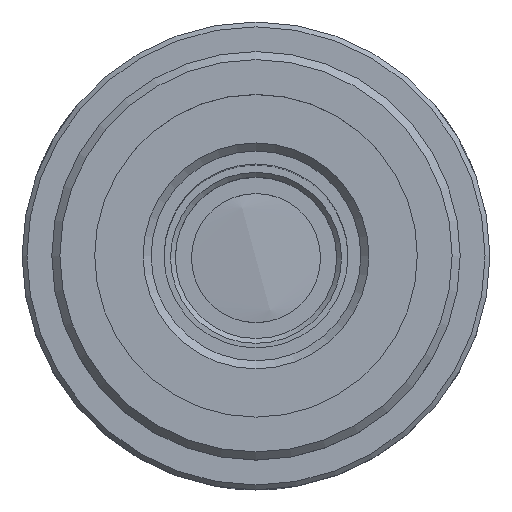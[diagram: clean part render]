
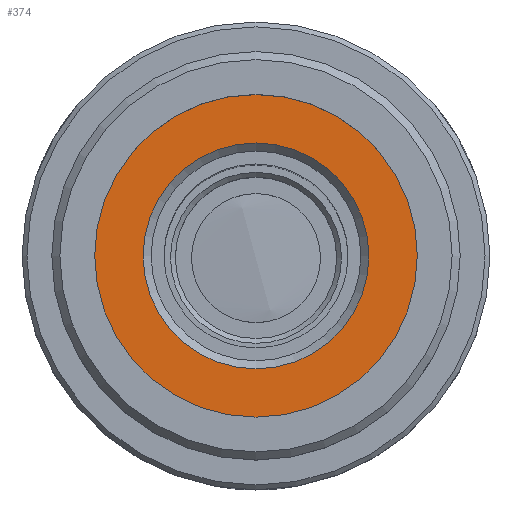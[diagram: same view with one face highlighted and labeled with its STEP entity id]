
A CAD part, top view. The second image highlights one B-rep face of the part: STEP entity #374.
In plain terms, the highlighted planar face has unit normal (0, 0, 1).
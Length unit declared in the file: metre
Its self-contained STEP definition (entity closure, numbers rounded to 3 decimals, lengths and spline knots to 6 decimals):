
#374=ADVANCED_FACE('NONE',(#806,#807),#808,.F.);
#806=FACE_BOUND('',#1310,.T.);
#807=FACE_OUTER_BOUND('',#1311,.T.);
#808=PLANE('',#1312);
#1310=EDGE_LOOP('',(#2233));
#1311=EDGE_LOOP('',(#2234));
#1312=AXIS2_PLACEMENT_3D('',#2235,#2236,#2237);
#2233=ORIENTED_EDGE('',*,*,#2728,.T.);
#2234=ORIENTED_EDGE('',*,*,#2730,.F.);
#2235=CARTESIAN_POINT('',(0.012802,0.010149,0.049459));
#2236=DIRECTION('',(0.,0.0,-1.0));
#2237=DIRECTION('',(-1.0,0.0,0.));
#2728=EDGE_CURVE('NONE',#3227,#3227,#3228,.T.);
#2730=EDGE_CURVE('NONE',#3230,#3230,#3231,.T.);
#3227=VERTEX_POINT('',#4008);
#3228=CIRCLE('',#4009,0.007);
#3230=VERTEX_POINT('',#4011);
#3231=CIRCLE('',#4012,0.01);
#4008=CARTESIAN_POINT('',(0.005802,0.000149,0.049459));
#4009=AXIS2_PLACEMENT_3D('',#4578,#4579,#4580);
#4011=CARTESIAN_POINT('',(0.002802,0.000149,0.049459));
#4012=AXIS2_PLACEMENT_3D('',#4581,#4582,#4583);
#4578=CARTESIAN_POINT('',(0.012802,0.000149,0.049459));
#4579=DIRECTION('',(0.,0.0,-1.0));
#4580=DIRECTION('',(-1.0,0.0,0.));
#4581=CARTESIAN_POINT('',(0.012802,0.000149,0.049459));
#4582=DIRECTION('',(0.,0.0,-1.0));
#4583=DIRECTION('',(-1.0,0.0,0.));
